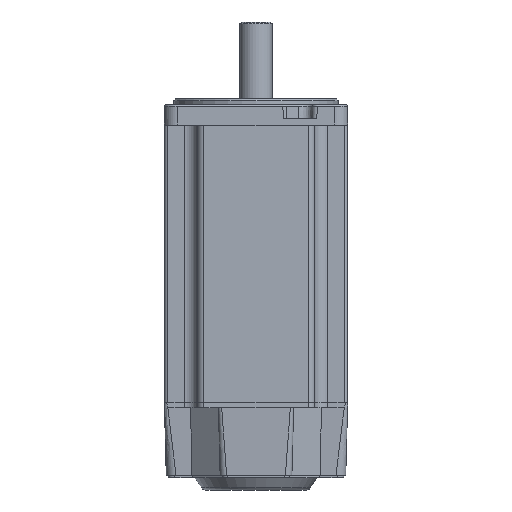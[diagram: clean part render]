
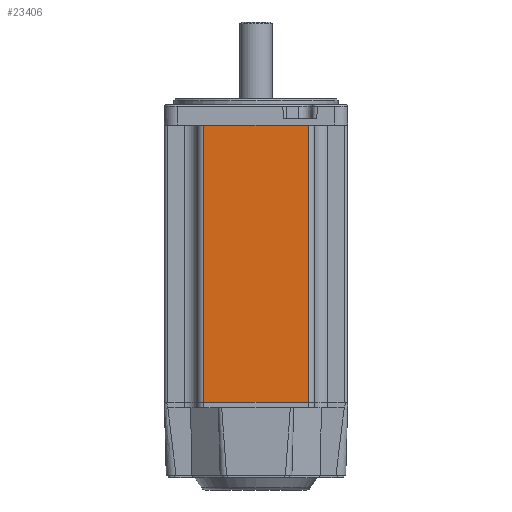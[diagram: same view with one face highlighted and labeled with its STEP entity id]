
A CAD part, front view. The second image highlights one B-rep face of the part: STEP entity #23406.
In plain terms, the highlighted planar face has unit normal (0, -1, 0).
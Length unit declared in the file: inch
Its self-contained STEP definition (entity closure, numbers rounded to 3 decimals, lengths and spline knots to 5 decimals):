
#21517=CARTESIAN_POINT('',(0.995,-1.75,-5.3));
#21518=VERTEX_POINT('',#21517);
#21525=CARTESIAN_POINT('',(-0.995,-1.75,-5.3));
#21526=VERTEX_POINT('',#21525);
#21527=CARTESIAN_POINT('',(-0.995,-1.75,-5.3));
#21528=DIRECTION('',(1.0,0.0,0.0));
#21529=VECTOR('',#21528,1.99);
#21530=LINE('',#21527,#21529);
#21531=EDGE_CURVE('',#21526,#21518,#21530,.T.);
#23364=CARTESIAN_POINT('',(-0.995,-1.75,0.0));
#23365=VERTEX_POINT('',#23364);
#23366=CARTESIAN_POINT('',(-0.995,-1.75,-5.3));
#23367=DIRECTION('',(0.0,0.0,1.0));
#23368=VECTOR('',#23367,5.3);
#23369=LINE('',#23366,#23368);
#23370=EDGE_CURVE('',#21526,#23365,#23369,.T.);
#23383=CARTESIAN_POINT('',(1.5,-1.75,0.0));
#23384=DIRECTION('',(0.0,-1.0,0.0));
#23385=DIRECTION('',(0.0,0.0,-1.0));
#23386=AXIS2_PLACEMENT_3D('',#23383,#23384,#23385);
#23387=PLANE('',#23386);
#23388=ORIENTED_EDGE('',*,*,#21531,.T.);
#23389=CARTESIAN_POINT('',(0.995,-1.75,0.0));
#23390=VERTEX_POINT('',#23389);
#23391=CARTESIAN_POINT('',(0.995,-1.75,0.0));
#23392=DIRECTION('',(0.0,0.0,-1.0));
#23393=VECTOR('',#23392,5.3);
#23394=LINE('',#23391,#23393);
#23395=EDGE_CURVE('',#23390,#21518,#23394,.T.);
#23396=ORIENTED_EDGE('',*,*,#23395,.F.);
#23397=CARTESIAN_POINT('',(-0.995,-1.75,0.0));
#23398=DIRECTION('',(1.0,0.0,0.0));
#23399=VECTOR('',#23398,1.99);
#23400=LINE('',#23397,#23399);
#23401=EDGE_CURVE('',#23365,#23390,#23400,.T.);
#23402=ORIENTED_EDGE('',*,*,#23401,.F.);
#23403=ORIENTED_EDGE('',*,*,#23370,.F.);
#23404=EDGE_LOOP('',(#23388,#23396,#23402,#23403));
#23405=FACE_OUTER_BOUND('',#23404,.T.);
#23406=ADVANCED_FACE('',(#23405),#23387,.T.);
